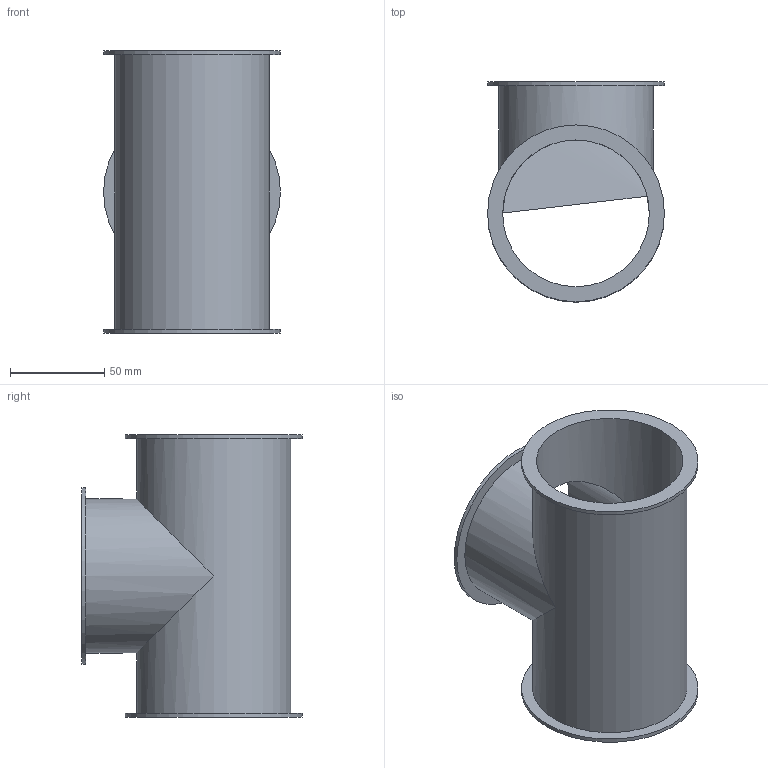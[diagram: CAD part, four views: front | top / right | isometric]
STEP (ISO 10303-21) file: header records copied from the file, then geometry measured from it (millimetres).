
FILE_DESCRIPTION((''),'2;1');
FILE_NAME('U:\Wolfgang\Marcel-3D\fertig\Kapitel 4\0821039.stp','2011-04-21T08:26:35',('TK1'),(''),'Autodesk Inventor 2010','Autodesk Inventor 2010','');
FILE_SCHEMA(('AUTOMOTIVE_DESIGN { 1 0 10303 214 1 1 1 1 }'));
Length unit declared in the file: millimetre
Products named in the file (1): 0821039
Bounding box: 94 x 117 x 150 mm (x, y, z)
Volume: 94931.3 mm3; surface area: 96654.8 mm2
Topology: 1 solids, 1 shells, 13 faces, 26 edges, 17 vertices
Faces by surface type: cylinder 7, plane 6
Full cylindrical faces by diameter (mm): 78 x2, 82 x2, 94 x3
Entity records: 328 total; most frequent: DIRECTION 60, CARTESIAN_POINT 46, ORIENTED_EDGE 32, AXIS2_PLACEMENT_3D 30, EDGE_LOOP 28, VERTEX_POINT 16, EDGE_CURVE 16, FACE_BOUND 15
